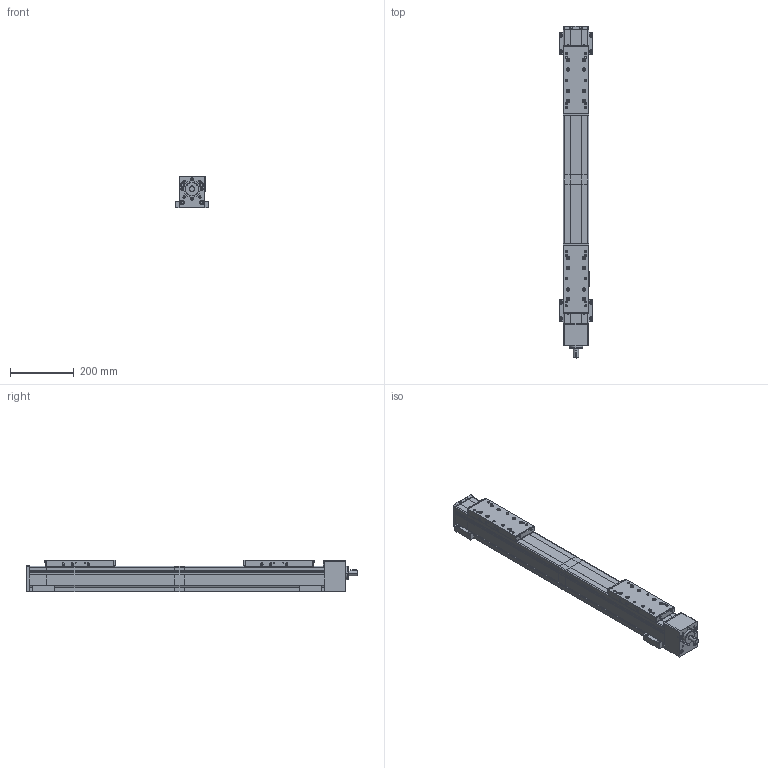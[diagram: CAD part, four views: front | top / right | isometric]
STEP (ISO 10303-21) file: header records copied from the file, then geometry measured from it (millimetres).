
FILE_DESCRIPTION(('Creo Elements/Direct Modeling STEP Export'),'2;1');
FILE_NAME('B080-SRS-RL-210-EN.stp','2020-02-25T 8:25:37',(''),(''),'Creo Elements/Direct Modeling STEP processor for AP214 (Solid Model)','Creo Elements/Direct Modeling 20.1C 13-Oct-2019 (C) Parametric Technology GmbH','');
FILE_SCHEMA(('AUTOMOTIVE_DESIGN { 1 0 10303 214 1 1 1 1 }'));
Length unit declared in the file: millimetre
Products named in the file (26): Beta080-SRS-SSS-Grundkoerper-Teil1; Beta080-SRS-SSS-Schlitten; Abstreiferbuerste-Blau_10504.02; Schraube_M_4x8_ISO_7380_va_10252; Abstreifer_kpl.02; Schlitten_kpl; Beta080-SRS-SSS-Grundkoerper-Teil2; BL2; BL2.1; Befestigungsleistenpaar; Befestigungsleistenpaar.1; Befestigungsleisten; NS3; NS3.1; Nutensteinpaar; Nutensteine; Endschalter_induktiv; Endschalter_induktiv.1; Endschalter_induktiv.2; Schaltfahne_10406; Linsenschraube_M4x8_EN_ISO_7380_1_10.9_vz_10243.01; Schaltfahne_10406_kpl; Endschalter-induktiv; B080-SRS-RL-210-EN
Assembly tree (29 placements, depth 4):
  B080-SRS-RL-210-EN
    Endschalter-induktiv
      Schaltfahne_10406_kpl
        Linsenschraube_M4x8_EN_ISO_7380_1_10.9_vz_10243.01  x2
        Schaltfahne_10406
      Endschalter_induktiv.2
      Endschalter_induktiv.1
      Endschalter_induktiv
    Schlitten_kpl  x2
      Abstreifer_kpl.02
        Schraube_M_4x8_ISO_7380_va_10252  x2
        Abstreiferbuerste-Blau_10504.02
      Beta080-SRS-SSS-Schlitten
    Nutensteine
      Nutensteinpaar
        NS3.1
        NS3
    Befestigungsleisten
      Befestigungsleistenpaar.1
        BL2.1
        BL2
      Befestigungsleistenpaar
        BL2.1
        BL2
    Beta080-SRS-SSS-Grundkoerper-Teil2
    Beta080-SRS-SSS-Grundkoerper-Teil1
Bounding box: 106 x 1038 x 100 mm (x, y, z)
Volume: 6975033.7 mm3; surface area: 598821.7 mm2
Topology: 28 solids, 28 shells, 1980 faces, 4544 edges, 2752 vertices
Faces by surface type: plane 1032, cylinder 628, cone 244, torus 56, sphere 20
Entity records: 42087 total; most frequent: CARTESIAN_POINT 10948, ORIENTED_EDGE 6612, DIRECTION 5510, EDGE_CURVE 3306, VERTEX_POINT 2046, VECTOR 1850, LINE 1850, AXIS2_PLACEMENT_3D 1830
